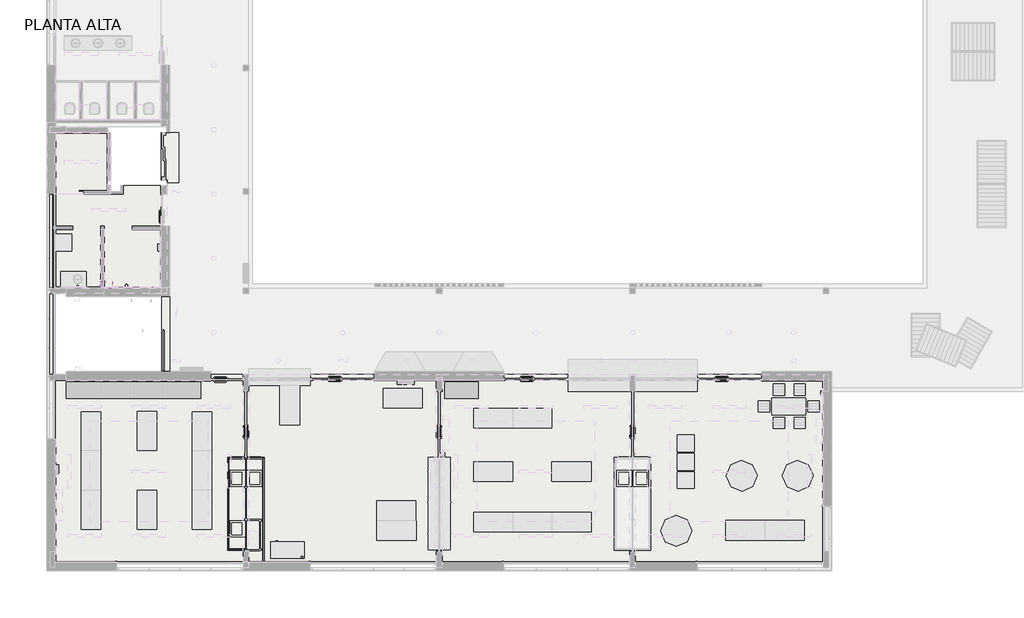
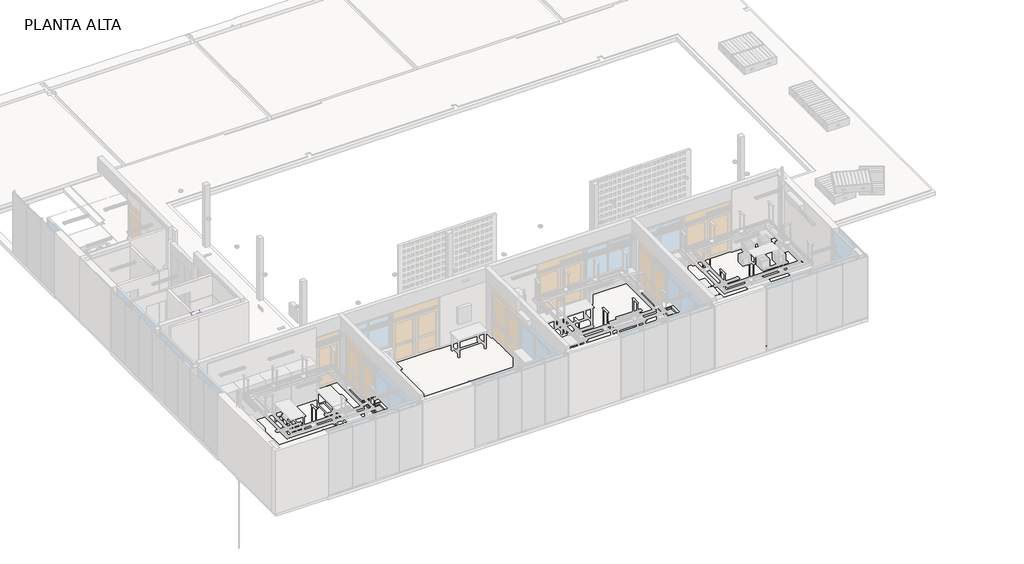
# One storey, part 6 of 14: 11 slabs, 1 covering, 1 proxy.
"""IFC4 building model written with IfcOpenShell, lengths in millimetres."""

from ifc_helpers import new_model, si_unit, frame, origin, place, context, project, spatial, polyline, circle_curve, ellipse_curve, outline, extrude, faceted_brep, element, save
from ifc_brep_helpers import plane_surface, cylinder_surface, advanced_brep

model = new_model("IFC4")

# Units and contexts
model_context = context("Model", 3, world=origin())
ifc_project = project(units=[si_unit("LENGTHUNIT", "METRE", prefix="MILLI")], contexts=[model_context])

# Site, building, storey
site = spatial("IfcSite", under=ifc_project)
building = spatial("IfcBuilding", under=site)
storey = spatial("IfcBuildingStorey", under=building, Name="PLANTA ALTA", Elevation=3310.0)

# Proxy
placement = place(None, origin())
element("IfcBuildingElementProxy", 1, Name="Borde mesada", ObjectType="Borde mesada", at=placement, inside=storey, context=model_context, shape_type="AdvancedBrep", body=[
    advanced_brep(
    [(10226.2173694, 958.9304035, 4215.0), (10226.2173694, 956.9304035, 4213.0), (10226.2173694, 956.9304035, 4190.0), (10226.2173694, 956.9304035, 4130.0), (10226.2173694, 956.9304035, 4128.0), (10226.2173694, 1006.9304035, 4128.0), (10226.2173694, 1006.9304035, 4130.0), (10226.2173694, 970.2304035, 4130.0), (10226.2173694, 958.9304035, 4130.0), (10226.2173694, 958.9304035, 4190.0), (10226.2173694, 958.9304035, 4213.0), (10226.2173694, 1004.9304035, 4213.0), (10226.2173694, 1004.9304035, 4190.0), (10226.2173694, 1026.9304035, 4190.0), (10226.2173694, 1026.9304035, 4192.0), (10226.2173694, 1006.9304035, 4192.0), (10226.2173694, 1006.9304035, 4213.0), (10226.2173694, 1004.9304035, 4215.0), (10839.1173694, 4270.2304035, 4213.0), (10839.1173694, 4270.2304035, 4128.0), (9538.3173694, 4270.2304035, 4128.0), (9538.3173694, 4270.2304035, 4213.0), (10837.1173694, 4268.2304035, 4215.0), (9540.3173694, 4268.2304035, 4215.0), (10791.1173694, 4222.2304035, 4215.0), (9586.3173694, 4222.2304035, 4215.0), (10789.1173694, 4220.2304035, 4213.0), (9588.3173694, 4220.2304035, 4213.0), (10789.1173694, 4220.2304035, 4192.0), (9588.3173694, 4220.2304035, 4192.0), (10769.1173694, 4200.2304035, 4192.0), (9608.3173694, 4200.2304035, 4192.0), (10769.1173694, 4200.2304035, 4190.0), (9608.3173694, 4200.2304035, 4190.0), (10791.1173694, 4222.2304035, 4190.0), (9586.3173694, 4222.2304035, 4190.0), (10791.1173694, 4222.2304035, 4213.0), (9586.3173694, 4222.2304035, 4213.0), (10837.1173694, 4268.2304035, 4213.0), (9540.3173694, 4268.2304035, 4213.0), (10837.1173694, 4268.2304035, 4130.0), (9540.3173694, 4268.2304035, 4130.0), (9551.6173694, 4256.9304035, 4130.0), (9588.3173694, 4220.2304035, 4130.0), (10789.1173694, 4220.2304035, 4130.0), (10825.8173694, 4256.9304035, 4130.0), (10789.1173694, 4220.2304035, 4128.0), (9588.3173694, 4220.2304035, 4128.0), (9538.3173694, 956.9304035, 4128.0), (9538.3173694, 956.9304035, 4213.0), (9540.3173694, 958.9304035, 4215.0), (9586.3173694, 1004.9304035, 4215.0), (9588.3173694, 1006.9304035, 4213.0), (9588.3173694, 1006.9304035, 4192.0), (9608.3173694, 1026.9304035, 4192.0), (9608.3173694, 1026.9304035, 4190.0), (9586.3173694, 1004.9304035, 4190.0), (9586.3173694, 1004.9304035, 4213.0), (9540.3173694, 958.9304035, 4213.0), (9540.3173694, 958.9304035, 4130.0), (9551.6173694, 970.2304035, 4130.0), (9588.3173694, 1006.9304035, 4130.0), (9588.3173694, 1006.9304035, 4128.0), (10839.1173694, 535.2304035, 4128.0), (10839.1173694, 535.2304035, 4213.0), (10837.1173694, 535.2304035, 4215.0), (10791.1173694, 535.2304035, 4215.0), (10789.1173694, 535.2304035, 4213.0), (10789.1173694, 535.2304035, 4192.0), (10769.1173694, 535.2304035, 4192.0), (10769.1173694, 535.2304035, 4190.0), (10791.1173694, 535.2304035, 4190.0), (10791.1173694, 535.2304035, 4213.0), (10837.1173694, 535.2304035, 4213.0), (10837.1173694, 535.2304035, 4130.0), (10825.8173694, 535.2304035, 4130.0), (10789.1173694, 535.2304035, 4130.0), (10789.1173694, 535.2304035, 4128.0)],
    [
        (0, 1, circle_curve(frame((10226.2173694, 958.9304035, 4213.0), z_axis=(1.0, 0.0, 0.0), x_axis=(0.0, 1.0, 0.0)), 2.0)),
        (1, 2),
        (2, 3),
        (3, 4),
        (4, 5),
        (5, 6),
        (6, 7),
        (7, 8),
        (8, 9),
        (9, 10),
        (10, 11),
        (11, 12),
        (12, 13),
        (13, 14),
        (14, 15),
        (15, 16),
        (16, 17, circle_curve(frame((10226.2173694, 1004.9304035, 4213.0), z_axis=(1.0, 0.0, 0.0), x_axis=(0.0, 1.0, 0.0)), 2.0)),
        (17, 0),
        (18, 19),
        (19, 20),
        (20, 21),
        (21, 18),
        (22, 18, ellipse_curve(frame((10837.1173694, 4268.2304035, 4213.0), z_axis=(-0.7071067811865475, 0.7071067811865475, 0.0), x_axis=(0.7071067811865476, 0.7071067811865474, 0.0)), 2.8284271, 2.0)),
        (21, 23, ellipse_curve(frame((9540.3173694, 4268.2304035, 4213.0), z_axis=(0.7071067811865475, 0.7071067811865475, 0.0), x_axis=(0.7071067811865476, -0.7071067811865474, 0.0)), 2.8284271, 2.0)),
        (23, 22),
        (24, 22),
        (23, 25),
        (25, 24),
        (26, 24, ellipse_curve(frame((10791.1173694, 4222.2304035, 4213.0), z_axis=(-0.7071067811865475, 0.7071067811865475, 0.0), x_axis=(0.7071067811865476, 0.7071067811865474, 0.0)), 2.8284271, 2.0)),
        (25, 27, ellipse_curve(frame((9586.3173694, 4222.2304035, 4213.0), z_axis=(0.7071067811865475, 0.7071067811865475, 0.0), x_axis=(0.7071067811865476, -0.7071067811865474, 0.0)), 2.8284271, 2.0)),
        (27, 26),
        (28, 26),
        (27, 29),
        (29, 28),
        (30, 28),
        (29, 31),
        (31, 30),
        (32, 30),
        (31, 33),
        (33, 32),
        (34, 32),
        (33, 35),
        (35, 34),
        (36, 34),
        (35, 37),
        (37, 36),
        (38, 36),
        (37, 39),
        (39, 38),
        (40, 38),
        (39, 41),
        (41, 40),
        (41, 42),
        (42, 43),
        (43, 44),
        (44, 45),
        (45, 40),
        (46, 44),
        (43, 47),
        (47, 46),
        (19, 46),
        (47, 20),
        (20, 48),
        (48, 49),
        (49, 21),
        (49, 50, ellipse_curve(frame((9540.3173694, 958.9304035, 4213.0), z_axis=(-0.7071067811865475, 0.7071067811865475, 0.0), x_axis=(0.7071067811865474, 0.7071067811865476, 0.0)), 2.8284271, 2.0)),
        (50, 23),
        (50, 51),
        (51, 25),
        (51, 52, ellipse_curve(frame((9586.3173694, 1004.9304035, 4213.0), z_axis=(-0.7071067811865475, 0.7071067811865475, 0.0), x_axis=(0.7071067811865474, 0.7071067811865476, 0.0)), 2.8284271, 2.0)),
        (52, 27),
        (52, 53),
        (53, 29),
        (53, 54),
        (54, 31),
        (54, 55),
        (55, 33),
        (55, 56),
        (56, 35),
        (56, 57),
        (57, 37),
        (57, 58),
        (58, 39),
        (58, 59),
        (59, 41),
        (59, 60),
        (60, 61),
        (61, 43),
        (61, 62),
        (62, 47),
        (62, 48),
        (48, 4),
        (1, 49),
        (0, 50),
        (17, 51),
        (16, 52),
        (15, 53),
        (14, 54),
        (13, 55),
        (12, 56),
        (11, 57),
        (10, 58),
        (8, 59),
        (6, 61),
        (5, 62),
        (63, 64),
        (64, 65, circle_curve(frame((10837.1173694, 535.2304035, 4213.0), z_axis=(0.0, -1.0, 0.0), x_axis=(-1.0, 0.0, 0.0)), 2.0)),
        (65, 66),
        (66, 67, circle_curve(frame((10791.1173694, 535.2304035, 4213.0), z_axis=(0.0, -1.0, 0.0), x_axis=(-1.0, 0.0, 0.0)), 2.0)),
        (67, 68),
        (68, 69),
        (69, 70),
        (70, 71),
        (71, 72),
        (72, 73),
        (73, 74),
        (74, 75),
        (75, 76),
        (76, 77),
        (77, 63),
        (18, 64),
        (63, 19),
        (22, 65),
        (24, 66),
        (26, 67),
        (28, 68),
        (30, 69),
        (32, 70),
        (34, 71),
        (36, 72),
        (38, 73),
        (40, 74),
        (44, 76),
        (46, 77),
    ],
    [
        plane_surface(frame((10226.2173694, 970.2304035, 4117.9521687), z_axis=(1.0, 0.0, 0.0), x_axis=(0.0, 1.0, 0.0))),
        plane_surface(frame((10839.1173694, 4270.2304035, 4128.0), z_axis=(0.0, 1.0, 0.0), x_axis=(-1.0, 0.0, 0.0))),
        cylinder_surface(frame((10825.8173694, 4268.2304035, 4213.0), z_axis=(1.0, 0.0, 0.0), x_axis=(0.0, -1.0, 0.0)), 2.0),
        plane_surface(frame((10837.1173694, 4268.2304035, 4215.0), z_axis=(0.0, 0.0, 1.0), x_axis=(-1.0, 0.0, 0.0))),
        cylinder_surface(frame((10825.8173694, 4222.2304035, 4213.0), z_axis=(1.0, 0.0, 0.0), x_axis=(0.0, -1.0, 0.0)), 2.0),
        plane_surface(frame((10789.1173694, 4220.2304035, 4213.0), z_axis=(0.0, -1.0, 0.0), x_axis=(-1.0, 0.0, 0.0))),
        plane_surface(frame((10789.1173694, 4220.2304035, 4192.0), z_axis=(0.0, 0.0, 1.0), x_axis=(-1.0, 0.0, 0.0))),
        plane_surface(frame((10769.1173694, 4200.2304035, 4192.0), z_axis=(0.0, -1.0, 0.0), x_axis=(-1.0, 0.0, 0.0))),
        plane_surface(frame((10769.1173694, 4200.2304035, 4190.0), z_axis=(0.0, 0.0, -1.0), x_axis=(-1.0, 0.0, 0.0))),
        plane_surface(frame((10791.1173694, 4222.2304035, 4190.0), z_axis=(0.0, 1.0, 0.0), x_axis=(-1.0, 0.0, 0.0))),
        plane_surface(frame((10791.1173694, 4222.2304035, 4213.0), z_axis=(0.0, 0.0, -1.0), x_axis=(-1.0, 0.0, 0.0))),
        plane_surface(frame((10837.1173694, 4268.2304035, 4213.0), z_axis=(0.0, -1.0, 0.0), x_axis=(-1.0, 0.0, 0.0))),
        plane_surface(frame((10837.1173694, 4268.2304035, 4130.0), z_axis=(0.0, 0.0, 1.0), x_axis=(-1.0, 0.0, 0.0))),
        plane_surface(frame((10789.1173694, 4220.2304035, 4130.0), z_axis=(0.0, -1.0, 0.0), x_axis=(-1.0, 0.0, 0.0))),
        plane_surface(frame((10789.1173694, 4220.2304035, 4128.0), z_axis=(0.0, 0.0, -1.0), x_axis=(-1.0, 0.0, 0.0))),
        plane_surface(frame((9538.3173694, 4270.2304035, 4128.0), z_axis=(-1.0, 0.0, 0.0), x_axis=(0.0, -1.0, 0.0))),
        cylinder_surface(frame((9540.3173694, 4256.9304035, 4213.0), z_axis=(0.0, 1.0, 0.0), x_axis=(1.0, 0.0, 0.0)), 2.0),
        plane_surface(frame((9540.3173694, 4268.2304035, 4215.0), z_axis=(0.0, 0.0, 1.0), x_axis=(0.0, -1.0, 0.0))),
        cylinder_surface(frame((9586.3173694, 4256.9304035, 4213.0), z_axis=(0.0, 1.0, 0.0), x_axis=(1.0, 0.0, 0.0)), 2.0),
        plane_surface(frame((9588.3173694, 4220.2304035, 4213.0), z_axis=(1.0, 0.0, 0.0), x_axis=(0.0, -1.0, 0.0))),
        plane_surface(frame((9588.3173694, 4220.2304035, 4192.0), z_axis=(0.0, 0.0, 1.0), x_axis=(0.0, -1.0, 0.0))),
        plane_surface(frame((9608.3173694, 4200.2304035, 4192.0), z_axis=(1.0, 0.0, 0.0), x_axis=(0.0, -1.0, 0.0))),
        plane_surface(frame((9608.3173694, 4200.2304035, 4190.0), z_axis=(0.0, 0.0, -1.0), x_axis=(0.0, -1.0, 0.0))),
        plane_surface(frame((9586.3173694, 4222.2304035, 4190.0), z_axis=(-1.0, 0.0, 0.0), x_axis=(0.0, -1.0, 0.0))),
        plane_surface(frame((9586.3173694, 4222.2304035, 4213.0), z_axis=(0.0, 0.0, -1.0), x_axis=(0.0, -1.0, 0.0))),
        plane_surface(frame((9540.3173694, 4268.2304035, 4213.0), z_axis=(1.0, 0.0, 0.0), x_axis=(0.0, -1.0, 0.0))),
        plane_surface(frame((9540.3173694, 4268.2304035, 4130.0), z_axis=(0.0, 0.0, 1.0), x_axis=(0.0, -1.0, 0.0))),
        plane_surface(frame((9588.3173694, 4220.2304035, 4130.0), z_axis=(1.0, 0.0, 0.0), x_axis=(0.0, -1.0, 0.0))),
        plane_surface(frame((9588.3173694, 4220.2304035, 4128.0), z_axis=(0.0, 0.0, -1.0), x_axis=(0.0, -1.0, 0.0))),
        plane_surface(frame((9538.3173694, 956.9304035, 4128.0), z_axis=(0.0, -1.0, 0.0), x_axis=(1.0, 0.0, 0.0))),
        cylinder_surface(frame((9551.6173694, 958.9304035, 4213.0), z_axis=(-1.0, 0.0, 0.0), x_axis=(0.0, 1.0, 0.0)), 2.0),
        plane_surface(frame((9540.3173694, 958.9304035, 4215.0), z_axis=(0.0, 0.0, 1.0), x_axis=(1.0, 0.0, 0.0))),
        cylinder_surface(frame((9551.6173694, 1004.9304035, 4213.0), z_axis=(-1.0, 0.0, 0.0), x_axis=(0.0, 1.0, 0.0)), 2.0),
        plane_surface(frame((9588.3173694, 1006.9304035, 4213.0), z_axis=(0.0, 1.0, 0.0), x_axis=(1.0, 0.0, 0.0))),
        plane_surface(frame((9588.3173694, 1006.9304035, 4192.0), z_axis=(0.0, 0.0, 1.0), x_axis=(1.0, 0.0, 0.0))),
        plane_surface(frame((9608.3173694, 1026.9304035, 4192.0), z_axis=(0.0, 1.0, 0.0), x_axis=(1.0, 0.0, 0.0))),
        plane_surface(frame((9608.3173694, 1026.9304035, 4190.0), z_axis=(0.0, 0.0, -1.0), x_axis=(1.0, 0.0, 0.0))),
        plane_surface(frame((9586.3173694, 1004.9304035, 4190.0), z_axis=(0.0, -1.0, 0.0), x_axis=(1.0, 0.0, 0.0))),
        plane_surface(frame((9586.3173694, 1004.9304035, 4213.0), z_axis=(0.0, 0.0, -1.0), x_axis=(1.0, 0.0, 0.0))),
        plane_surface(frame((9540.3173694, 958.9304035, 4213.0), z_axis=(0.0, 1.0, 0.0), x_axis=(1.0, 0.0, 0.0))),
        plane_surface(frame((9540.3173694, 958.9304035, 4130.0), z_axis=(0.0, 0.0, 1.0), x_axis=(1.0, 0.0, 0.0))),
        plane_surface(frame((9588.3173694, 1006.9304035, 4130.0), z_axis=(0.0, 1.0, 0.0), x_axis=(1.0, 0.0, 0.0))),
        plane_surface(frame((9588.3173694, 1006.9304035, 4128.0), z_axis=(0.0, 0.0, -1.0), x_axis=(1.0, 0.0, 0.0))),
        plane_surface(frame((10753.769538, 535.2304035, 4190.0), z_axis=(0.0, -1.0, 0.0), x_axis=(0.0, 0.0, 1.0))),
        plane_surface(frame((10839.1173694, 535.2304035, 4128.0), z_axis=(1.0, 0.0, 0.0), x_axis=(0.0, 1.0, 0.0))),
        cylinder_surface(frame((10837.1173694, 535.2304035, 4213.0), z_axis=(0.0, -1.0, 0.0), x_axis=(-1.0, 0.0, 0.0)), 2.0),
        plane_surface(frame((10837.1173694, 535.2304035, 4215.0), z_axis=(0.0, 0.0, 1.0), x_axis=(0.0, 1.0, 0.0))),
        cylinder_surface(frame((10791.1173694, 535.2304035, 4213.0), z_axis=(0.0, -1.0, 0.0), x_axis=(-1.0, 0.0, 0.0)), 2.0),
        plane_surface(frame((10789.1173694, 535.2304035, 4213.0), z_axis=(-1.0, 0.0, 0.0), x_axis=(0.0, 1.0, 0.0))),
        plane_surface(frame((10789.1173694, 535.2304035, 4192.0), z_axis=(0.0, 0.0, 1.0), x_axis=(0.0, 1.0, 0.0))),
        plane_surface(frame((10769.1173694, 535.2304035, 4192.0), z_axis=(-1.0, 0.0, 0.0), x_axis=(0.0, 1.0, 0.0))),
        plane_surface(frame((10769.1173694, 535.2304035, 4190.0), z_axis=(0.0, 0.0, -1.0), x_axis=(0.0, 1.0, 0.0))),
        plane_surface(frame((10791.1173694, 535.2304035, 4190.0), z_axis=(1.0, 0.0, 0.0), x_axis=(0.0, 1.0, 0.0))),
        plane_surface(frame((10791.1173694, 535.2304035, 4213.0), z_axis=(0.0, 0.0, -1.0), x_axis=(0.0, 1.0, 0.0))),
        plane_surface(frame((10837.1173694, 535.2304035, 4213.0), z_axis=(-1.0, 0.0, 0.0), x_axis=(0.0, 1.0, 0.0))),
        plane_surface(frame((10837.1173694, 535.2304035, 4130.0), z_axis=(0.0, 0.0, 1.0), x_axis=(0.0, 1.0, 0.0))),
        plane_surface(frame((10789.1173694, 535.2304035, 4130.0), z_axis=(-1.0, 0.0, 0.0), x_axis=(0.0, 1.0, 0.0))),
        plane_surface(frame((10789.1173694, 535.2304035, 4128.0), z_axis=(0.0, 0.0, -1.0), x_axis=(0.0, 1.0, 0.0))),
    ],
    [
        (0, [[1, 2, 3, 4, 5, 6, 7, 8, 9, 10, 11, 12, 13, 14, 15, 16, 17, 18]]),
        (1, [[19, 20, 21, 22]]),
        (2, [[23, -22, 24, 25]]),
        (3, [[26, -25, 27, 28]]),
        (4, [[29, -28, 30, 31]]),
        (5, [[32, -31, 33, 34]]),
        (6, [[35, -34, 36, 37]]),
        (7, [[38, -37, 39, 40]]),
        (8, [[41, -40, 42, 43]]),
        (9, [[44, -43, 45, 46]]),
        (10, [[47, -46, 48, 49]]),
        (11, [[50, -49, 51, 52]]),
        (12, [[-52, 53, 54, 55, 56, 57]]),
        (13, [[58, -55, 59, 60]]),
        (14, [[61, -60, 62, -20]]),
        (15, [[-21, 63, 64, 65]]),
        (16, [[-24, -65, 66, 67]]),
        (17, [[-27, -67, 68, 69]]),
        (18, [[-30, -69, 70, 71]]),
        (19, [[-33, -71, 72, 73]]),
        (20, [[-36, -73, 74, 75]]),
        (21, [[-39, -75, 76, 77]]),
        (22, [[-42, -77, 78, 79]]),
        (23, [[-45, -79, 80, 81]]),
        (24, [[-48, -81, 82, 83]]),
        (25, [[-51, -83, 84, 85]]),
        (26, [[-85, 86, 87, 88, -54, -53]]),
        (27, [[-59, -88, 89, 90]]),
        (28, [[-62, -90, 91, -63]]),
        (29, [[-64, 92, -4, -3, -2, 93]]),
        (30, [[-66, -93, -1, 94]]),
        (31, [[-68, -94, -18, 95]]),
        (32, [[-70, -95, -17, 96]]),
        (33, [[-72, -96, -16, 97]]),
        (34, [[-74, -97, -15, 98]]),
        (35, [[-76, -98, -14, 99]]),
        (36, [[-78, -99, -13, 100]]),
        (37, [[-80, -100, -12, 101]]),
        (38, [[-82, -101, -11, 102]]),
        (39, [[-84, -102, -10, -9, 103]]),
        (40, [[-103, -8, -7, 104, -87, -86]]),
        (41, [[-89, -104, -6, 105]]),
        (42, [[-91, -105, -5, -92]]),
        (43, [[106, 107, 108, 109, 110, 111, 112, 113, 114, 115, 116, 117, 118, 119, 120]]),
        (44, [[-19, 121, -106, 122]]),
        (45, [[-23, 123, -107, -121]]),
        (46, [[-26, 124, -108, -123]]),
        (47, [[-29, 125, -109, -124]]),
        (48, [[-32, 126, -110, -125]]),
        (49, [[-35, 127, -111, -126]]),
        (50, [[-38, 128, -112, -127]]),
        (51, [[-41, 129, -113, -128]]),
        (52, [[-44, 130, -114, -129]]),
        (53, [[-47, 131, -115, -130]]),
        (54, [[-50, 132, -116, -131]]),
        (55, [[-132, -57, -56, 133, -118, -117]]),
        (56, [[-58, 134, -119, -133]]),
        (57, [[-61, -122, -120, -134]]),
    ],
),
])

# Covering
element("IfcCovering", 2, ObjectType="22-CIEL-PLACA DE YESO PINTADA DE BLANCO CON ESTRUCTURA 45,5MM", at=placement, inside=storey, context=model_context, shape_type="SweptSolid", body=[
    extrude(outline(polyline([(4999.4173694, 10540.2304035), (5418.7212045, 10540.2304035), (5418.7212045, 10320.2304035), (4999.4173694, 10320.2304035), (4999.4173694, 10540.2304035)])), frame((0.0, 0.0, 6410.0), z_axis=(0.0, 0.0, 1.0), x_axis=(1.0, 0.0, 0.0)), (0.0, 0.0, 1.0), 45.5),
])

# Slabs
element("IfcSlab", 3, ObjectType="C21 MONOLITICO 30x30 5cm", at=placement, inside=storey, context=model_context, shape_type="Brep", body=[
    faceted_brep([(5253.7173693, 15855.2304035, 3260.0), (5253.7173693, 13780.2304035, 3260.0), (4403.7173694, 13780.2304035, 3260.0), (4403.7173694, 13670.2304035, 3260.0), (5363.7173693, 13670.2304035, 3260.0), (5363.7173693, 13755.2304035, 3260.0), (5718.7173694, 13755.2304035, 3260.0), (5718.7173694, 13970.2304035, 3260.0), (7168.7173694, 13970.2304035, 3260.0), (7168.7173694, 12520.2304035, 3260.0), (7148.7173693, 12520.2304035, 3260.0), (6133.7173694, 12520.2304035, 3260.0), (6133.7173694, 12415.2304035, 3260.0), (7148.7173693, 12415.2304035, 3260.0), (7158.3526361, 12415.2304035, 3260.0), (7158.3526361, 10340.2304035, 3260.0), (7158.3526361, 10330.2304035, 3260.0), (5123.3526361, 10330.2304035, 3260.0), (5123.3526361, 10340.2304035, 3260.0), (5123.3526361, 12405.2304035, 3260.0), (5133.7173694, 12405.2304035, 3260.0), (5133.7173694, 12410.2304035, 3260.0), (5133.7173694, 12520.2304035, 3260.0), (5018.7173694, 12520.2304035, 3260.0), (5018.7173694, 12410.2304035, 3260.0), (5018.7173694, 10335.2304035, 3260.0), (3403.7173693, 10335.2304035, 3260.0), (3403.7173693, 12410.2304035, 3260.0), (4018.7173694, 12410.2304035, 3260.0), (4018.7173694, 12520.2304035, 3260.0), (3403.7173694, 12520.2304035, 3260.0), (3403.7173694, 15855.2304035, 3260.0), (5253.7173693, 15855.2304035, 3310.0), (3403.7173694, 15855.2304035, 3310.0), (3403.7173694, 12520.2304035, 3310.0), (4018.7173694, 12520.2304035, 3310.0), (4018.7173694, 12410.2304035, 3310.0), (3403.7173693, 12410.2304035, 3310.0), (3403.7173693, 10335.2304035, 3310.0), (5018.7173694, 10335.2304035, 3310.0), (5018.7173694, 12520.2304035, 3310.0), (5133.7173694, 12520.2304035, 3310.0), (5133.7173694, 12405.2304035, 3310.0), (5123.3526361, 12405.2304035, 3310.0), (5123.3526361, 10340.2304035, 3310.0), (5123.3526361, 10330.2304035, 3310.0), (7158.3526361, 10330.2304035, 3310.0), (7158.3526361, 10340.2304035, 3310.0), (7158.3526361, 12415.2304035, 3310.0), (7148.7173693, 12415.2304035, 3310.0), (6133.7173694, 12415.2304035, 3310.0), (6133.7173694, 12520.2304035, 3310.0), (7168.7173694, 12520.2304035, 3310.0), (7168.7173694, 13970.2304035, 3310.0), (5718.7173694, 13970.2304035, 3310.0), (5718.7173694, 13755.2304035, 3310.0), (5363.7173693, 13755.2304035, 3310.0), (5363.7173693, 13670.2304035, 3310.0), (4403.7173694, 13670.2304035, 3310.0), (4403.7173694, 13780.2304035, 3310.0), (5253.7173693, 13780.2304035, 3310.0)], [[[0, 1, 2, 3, 4, 5, 6, 7, 8, 9, 10, 11, 12, 13, 14, 15, 16, 17, 18, 19, 20, 21, 22, 23, 24, 25, 26, 27, 28, 29, 30, 31]], [[32, 33, 34, 35, 36, 37, 38, 39, 40, 41, 42, 43, 44, 45, 46, 47, 48, 49, 50, 51, 52, 53, 54, 55, 56, 57, 58, 59, 60]], [[1, 0, 32, 60]], [[2, 1, 60, 59]], [[3, 2, 59, 58]], [[4, 3, 58, 57]], [[5, 4, 57, 56]], [[8, 7, 54, 53]], [[9, 8, 53, 52]], [[11, 10, 9, 52, 51]], [[12, 11, 51, 50]], [[14, 13, 12, 50, 49, 48]], [[16, 15, 14, 48, 47, 46]], [[17, 16, 46, 45]], [[19, 18, 17, 45, 44, 43]], [[20, 19, 43, 42]], [[22, 21, 20, 42, 41]], [[23, 22, 41, 40]], [[25, 24, 23, 40, 39]], [[26, 25, 39, 38]], [[27, 26, 38, 37]], [[28, 27, 37, 36]], [[29, 28, 36, 35]], [[30, 29, 35, 34]], [[31, 30, 34, 33]], [[0, 31, 33, 32]], [[6, 5, 56, 55]], [[7, 6, 55, 54]]]),
])
element("IfcSlab", 4, ObjectType="PODOTÁCTIL 30x30 4 cm", at=placement, inside=storey, context=model_context, shape_type="SweptSolid", body=[
    extrude(outline(polyline([(7188.7173693, 10010.2304035), (7478.7173693, 10010.2304035), (7478.7173693, 7330.2304035), (7188.7173693, 7330.2304035), (7188.7173693, 10010.2304035)])), frame((0.0, 0.0, 3260.0), z_axis=(0.0, 0.0, 1.0), x_axis=(1.0, 0.0, 0.0)), (0.0, 0.0, 1.0), 50.0),
])
element("IfcSlab", 5, ObjectType="PODOTÁCTIL 30x30 4 cm", at=placement, inside=storey, context=model_context, shape_type="SweptSolid", body=[
    extrude(outline(polyline([(7788.7173694, 15870.2304035), (7788.7173694, 14070.2304035), (7368.7173693, 14070.2304035), (7368.7173693, 14170.2304035), (7168.7173694, 14170.2304035), (7168.7173694, 15870.2304035), (7788.7173694, 15870.2304035)])), frame((0.0, 0.0, 3260.0), z_axis=(0.0, 0.0, 1.0), x_axis=(1.0, 0.0, 0.0)), (0.0, 0.0, 1.0), 50.0),
])
element("IfcSlab", 6, ObjectType="MESA-INT-Mesada de hormigón-6cm-PET", at=placement, inside=storey, context=model_context, shape_type="Brep", body=[
    faceted_brep([(10825.8173694, 4256.9304035, 4130.0), (10825.8173694, 535.2304035, 4130.0), (10789.1173694, 535.2304035, 4130.0), (10288.7173693, 535.2304035, 4130.0), (10288.7173693, 920.2304035, 4130.0), (10226.2173694, 920.2304035, 4130.0), (10226.2173694, 970.2304035, 4130.0), (9551.6173694, 970.2304035, 4130.0), (9551.6173694, 4256.9304035, 4130.0), (10051.6173694, 3730.2304035, 4130.0), (9691.6173694, 3730.2304035, 4130.0), (9691.6173694, 3310.2304035, 4130.0), (10051.6173694, 3310.2304035, 4130.0), (10051.6173694, 1930.2304035, 4130.0), (9691.6173694, 1930.2304035, 4130.0), (9691.6173694, 1510.2304035, 4130.0), (10051.6173694, 1510.2304035, 4130.0), (10325.8173694, 3730.2304035, 4130.0), (10325.8173694, 3310.2304035, 4130.0), (10685.8173694, 3310.2304035, 4130.0), (10685.8173694, 3730.2304035, 4130.0), (10825.8173694, 4256.9304035, 4190.0), (9551.6173694, 4256.9304035, 4190.0), (9551.6173694, 970.2304035, 4190.0), (10226.2173694, 970.2304035, 4190.0), (10226.2173694, 920.2304035, 4190.0), (10288.7173693, 920.2304035, 4190.0), (10288.7173693, 535.2304035, 4190.0), (10769.1173694, 535.2304035, 4190.0), (10791.1173694, 535.2304035, 4190.0), (10825.8173694, 535.2304035, 4190.0), (10051.6173694, 3730.2304035, 4190.0), (10051.6173694, 3310.2304035, 4190.0), (9691.6173694, 3310.2304035, 4190.0), (9691.6173694, 3730.2304035, 4190.0), (10051.6173694, 1930.2304035, 4190.0), (10051.6173694, 1510.2304035, 4190.0), (9691.6173694, 1510.2304035, 4190.0), (9691.6173694, 1930.2304035, 4190.0), (10325.8173694, 3730.2304035, 4190.0), (10685.8173694, 3730.2304035, 4190.0), (10685.8173694, 3310.2304035, 4190.0), (10325.8173694, 3310.2304035, 4190.0)], [[[0, 1, 2, 3, 4, 5, 6, 7, 8], [9, 10, 11, 12], [13, 14, 15, 16], [17, 18, 19, 20]], [[21, 22, 23, 24, 25, 26, 27, 28, 29, 30], [31, 32, 33, 34], [35, 36, 37, 38], [39, 40, 41, 42]], [[1, 0, 21, 30]], [[3, 2, 1, 30, 29, 28, 27]], [[4, 3, 27, 26]], [[7, 6, 24, 23]], [[8, 7, 23, 22]], [[0, 8, 22, 21]], [[10, 9, 31, 34]], [[11, 10, 34, 33]], [[12, 11, 33, 32]], [[9, 12, 32, 31]], [[14, 13, 35, 38]], [[15, 14, 38, 37]], [[16, 15, 37, 36]], [[13, 16, 36, 35]], [[18, 17, 39, 42]], [[19, 18, 42, 41]], [[20, 19, 41, 40]], [[17, 20, 40, 39]], [[5, 4, 26, 25]], [[6, 5, 25, 24]]]),
])
element("IfcSlab", 7, ObjectType="BANQUINA 13cm", at=placement, inside=storey, context=model_context, shape_type="Brep", body=[
    faceted_brep([(10113.7173694, 4120.2304035, 3260.0), (10113.7173694, 3245.2304035, 3260.0), (9658.3173694, 3245.2304035, 3260.0), (9658.3173694, 4120.2304035, 3260.0), (10113.7173694, 4120.2304035, 3380.0), (9658.3173694, 4120.2304035, 3380.0), (9658.3173694, 3245.2304035, 3380.0), (10113.7173694, 3245.2304035, 3380.0)], [[[0, 1, 2, 3]], [[4, 5, 6, 7]], [[1, 0, 4, 7]], [[2, 1, 7, 6]], [[3, 2, 6, 5]], [[0, 3, 5, 4]]]),
    faceted_brep([(10720.0173694, 4120.2304035, 3260.0), (10720.0173694, 3245.2304035, 3260.0), (10263.7173694, 3245.2304035, 3260.0), (10263.7173694, 4120.2304035, 3260.0), (10720.0173694, 4120.2304035, 3380.0), (10263.7173694, 4120.2304035, 3380.0), (10263.7173694, 3245.2304035, 3380.0), (10720.0173694, 3245.2304035, 3380.0)], [[[0, 1, 2, 3]], [[4, 5, 6, 7]], [[1, 0, 4, 7]], [[2, 1, 7, 6]], [[3, 2, 6, 5]], [[0, 3, 5, 4]]]),
    faceted_brep([(10113.7173694, 3095.2304035, 3260.0), (10113.7173694, 2145.2304035, 3260.0), (9658.3173694, 2145.2304035, 3260.0), (9658.3173694, 3095.2304035, 3260.0), (10113.7173694, 3095.2304035, 3380.0), (9658.3173694, 3095.2304035, 3380.0), (9658.3173694, 2145.2304035, 3380.0), (10113.7173694, 2145.2304035, 3380.0)], [[[0, 1, 2, 3]], [[4, 5, 6, 7]], [[1, 0, 4, 7]], [[2, 1, 7, 6]], [[3, 2, 6, 5]], [[0, 3, 5, 4]]]),
    faceted_brep([(10720.0173694, 3095.2304035, 3260.0), (10720.0173694, 2145.2304035, 3260.0), (10263.7173694, 2145.2304035, 3260.0), (10263.7173694, 3095.2304035, 3260.0), (10720.0173694, 3095.2304035, 3380.0), (10263.7173694, 3095.2304035, 3380.0), (10263.7173694, 2145.2304035, 3380.0), (10720.0173694, 2145.2304035, 3380.0)], [[[0, 1, 2, 3]], [[4, 5, 6, 7]], [[1, 0, 4, 7]], [[2, 1, 7, 6]], [[3, 2, 6, 5]], [[0, 3, 5, 4]]]),
    faceted_brep([(10113.7173694, 1995.2304035, 3260.0), (10113.7173694, 1120.2304035, 3260.0), (9658.3173694, 1120.2304035, 3260.0), (9658.3173694, 1995.2304035, 3260.0), (10113.7173694, 1995.2304035, 3380.0), (9658.3173694, 1995.2304035, 3380.0), (9658.3173694, 1120.2304035, 3380.0), (10113.7173694, 1120.2304035, 3380.0)], [[[0, 1, 2, 3]], [[4, 5, 6, 7]], [[1, 0, 4, 7]], [[2, 1, 7, 6]], [[3, 2, 6, 5]], [[0, 3, 5, 4]]]),
    faceted_brep([(10720.0173694, 1995.2304035, 3260.0), (10720.0173694, 1120.2304035, 3260.0), (10263.7173694, 1120.2304035, 3260.0), (10263.7173694, 1995.2304035, 3260.0), (10720.0173694, 1995.2304035, 3380.0), (10263.7173694, 1995.2304035, 3380.0), (10263.7173694, 1120.2304035, 3380.0), (10720.0173694, 1120.2304035, 3380.0)], [[[0, 1, 2, 3]], [[4, 5, 6, 7]], [[1, 0, 4, 7]], [[3, 2, 6, 5]], [[0, 3, 5, 4]], [[2, 1, 7, 6]]]),
    faceted_brep([(10295.0173694, 535.2304035, 3260.0), (10288.7173694, 535.2304035, 3260.0), (10288.7173694, 970.2304035, 3260.0), (10720.0173694, 970.2304035, 3260.0), (10720.0173694, 535.2304035, 3260.0), (10295.0173694, 535.2304035, 3380.0), (10720.0173694, 535.2304035, 3380.0), (10720.0173694, 545.2304035, 3380.0), (10720.0173694, 970.2304035, 3380.0), (10288.7173694, 970.2304035, 3380.0), (10288.7173694, 535.2304035, 3380.0), (10720.0173694, 535.2304035, 3310.0)], [[[0, 1, 2, 3, 4]], [[5, 6, 7, 8, 9, 10]], [[0, 4, 11, 6, 5]], [[1, 0, 5, 10]], [[2, 1, 10, 9]], [[3, 2, 9, 8]], [[4, 3, 8, 7, 6, 11]]]),
])
element("IfcSlab", 8, ObjectType="PORCELANATO MESADA 2cm", at=placement, inside=storey, context=model_context, shape_type="SweptSolid", body=[
    extrude(outline(polyline([(10789.1173694, 4220.2304035), (10789.1173694, 3820.2304035), (9588.3173694, 3820.2304035), (9588.3173694, 4220.2304035), (10789.1173694, 4220.2304035)])), frame((0.0, 0.0, 4190.0), z_axis=(0.0, 0.0, 1.0), x_axis=(1.0, 0.0, 0.0)), (0.0, 0.0, 1.0), 20.0),
    extrude(outline(polyline([(10226.2173694, 3220.2304035), (10789.1173694, 3220.2304035), (10789.1173694, 535.2304035), (10288.7173693, 535.2304035), (10288.7173693, 920.2304035), (10226.2173694, 920.2304035), (10226.2173694, 1006.9304035), (9588.3173694, 1006.9304035), (9588.3173694, 1420.2304035), (10188.3173694, 1420.2304035), (10188.3173694, 2020.2304035), (10226.2173694, 2020.2304035), (10226.2173694, 2070.2304035), (10151.2173694, 2070.2304035), (10151.2173694, 2020.2304035), (9588.3173694, 2020.2304035), (9588.3173694, 3220.2304035), (10151.2173694, 3220.2304035), (10151.2173694, 3170.2304035), (10226.2173694, 3170.2304035), (10226.2173694, 3220.2304035)])), frame((0.0, 0.0, 4190.0), z_axis=(0.0, 0.0, 1.0), x_axis=(1.0, 0.0, 0.0)), (0.0, 0.0, 1.0), 20.0),
])
element("IfcSlab", 9, ObjectType="C20 MONOLITICO 30x30 5cm", at=placement, inside=storey, context=model_context, shape_type="Brep", body=[
    faceted_brep([(3388.7173693, 4920.2304035, 3260.0), (3388.7173693, 7005.2304035, 3260.0), (8938.7173694, 7005.2304035, 3260.0), (8938.7173694, 7220.2304035, 3260.0), (10088.7173694, 7220.2304035, 3260.0), (10088.7173694, 6620.2304035, 3260.0), (10288.7173694, 6620.2304035, 3260.0), (10288.7173694, 7220.2304035, 3260.0), (14788.7173694, 7220.2304035, 3260.0), (14788.7173694, 7020.2304035, 3260.0), (16988.7173694, 7020.2304035, 3260.0), (16988.7173694, 6620.2304035, 3260.0), (17188.7173694, 6620.2304035, 3260.0), (17188.7173694, 7020.2304035, 3260.0), (19388.7173694, 7020.2304035, 3260.0), (19388.7173694, 7220.2304035, 3260.0), (23888.7173694, 7220.2304035, 3260.0), (23888.7173694, 6620.2304035, 3260.0), (24088.7173694, 6620.2304035, 3260.0), (24088.7173694, 7220.2304035, 3260.0), (28588.7173694, 7220.2304035, 3260.0), (28588.7173694, 7005.2304035, 3260.0), (30773.7173693, 7005.2304035, 3260.0), (30773.7173693, 6665.2304035, 3260.0), (30673.7173693, 6665.2304035, 3260.0), (30673.7173693, 6465.2304035, 3260.0), (30773.7173693, 6465.2304035, 3260.0), (30773.7173693, 535.2304035, 3260.0), (24088.7173694, 535.2304035, 3260.0), (24088.7173694, 920.2304035, 3260.0), (23888.7173694, 920.2304035, 3260.0), (23888.7173694, 535.2304035, 3260.0), (17188.7173694, 535.2304035, 3260.0), (17188.7173694, 920.2304035, 3260.0), (16988.7173694, 920.2304035, 3260.0), (16988.7173694, 535.2304035, 3260.0), (10720.0173694, 535.2304035, 3260.0), (10720.0173694, 1995.2304035, 3260.0), (10720.0173694, 2145.2304035, 3260.0), (10720.0173694, 3095.2304035, 3260.0), (10720.0173694, 3245.2304035, 3260.0), (10720.0173694, 4270.2304035, 3260.0), (9658.3173694, 4270.2304035, 3260.0), (9658.3173694, 3245.2304035, 3260.0), (9658.3173694, 3095.2304035, 3260.0), (9658.3173694, 2145.2304035, 3260.0), (9658.3173694, 1995.2304035, 3260.0), (9658.3173694, 1120.2304035, 3260.0), (9658.3173694, 970.2304035, 3260.0), (10113.7173694, 970.2304035, 3260.0), (10151.2173694, 970.2304035, 3260.0), (10151.2173694, 920.2304035, 3260.0), (10088.7173693, 920.2304035, 3260.0), (10088.7173693, 535.2304035, 3260.0), (3403.7173693, 535.2304035, 3260.0), (3403.7173693, 3685.2304035, 3260.0), (3538.7173693, 3685.2304035, 3260.0), (3538.7173693, 4015.2304035, 3260.0), (3403.7173693, 4015.2304035, 3260.0), (3403.7173693, 4920.2304035, 3260.0), (17288.7173694, 4428.2304035, 3260.0), (17188.7173694, 4428.2304035, 3260.0), (17188.7173694, 4270.2304035, 3260.0), (17288.7173694, 4270.2304035, 3260.0), (23458.3173694, 4270.2304035, 3260.0), (23458.3173694, 4120.2304035, 3260.0), (23458.3173694, 3245.2304035, 3260.0), (23458.3173694, 3095.2304035, 3260.0), (23458.3173694, 2145.2304035, 3260.0), (23458.3173694, 1995.2304035, 3260.0), (23458.3173694, 1120.2304035, 3260.0), (23458.3173694, 970.2304035, 3260.0), (24519.1173694, 970.2304035, 3260.0), (24519.1173694, 1120.2304035, 3260.0), (24519.1173694, 1995.2304035, 3260.0), (24519.1173694, 2145.2304035, 3260.0), (24519.1173694, 3095.2304035, 3260.0), (24519.1173694, 3245.2304035, 3260.0), (24519.1173694, 4120.2304035, 3260.0), (24519.1173694, 4270.2304035, 3260.0), (3388.7173693, 4920.2304035, 3310.0), (3403.7173693, 4920.2304035, 3310.0), (3403.7173693, 4015.2304035, 3310.0), (3538.7173693, 4015.2304035, 3310.0), (3538.7173693, 3685.2304035, 3310.0), (3403.7173693, 3685.2304035, 3310.0), (3403.7173693, 535.2304035, 3310.0), (10088.7173693, 535.2304035, 3310.0), (10088.7173693, 920.2304035, 3310.0), (10151.2173694, 920.2304035, 3310.0), (10151.2173694, 970.2304035, 3310.0), (9658.3173694, 970.2304035, 3310.0), (9658.3173694, 1120.2304035, 3310.0), (9658.3173694, 1995.2304035, 3310.0), (9658.3173694, 2145.2304035, 3310.0), (9658.3173694, 3095.2304035, 3310.0), (9658.3173694, 3245.2304035, 3310.0), (9658.3173694, 4270.2304035, 3310.0), (10720.0173694, 4270.2304035, 3310.0), (10720.0173694, 535.2304035, 3310.0), (16988.7173694, 535.2304035, 3310.0), (16988.7173694, 920.2304035, 3310.0), (17188.7173694, 920.2304035, 3310.0), (17188.7173694, 535.2304035, 3310.0), (23888.7173694, 535.2304035, 3310.0), (23888.7173694, 920.2304035, 3310.0), (24088.7173694, 920.2304035, 3310.0), (24088.7173694, 535.2304035, 3310.0), (30773.7173693, 535.2304035, 3310.0), (30773.7173693, 6465.2304035, 3310.0), (30673.7173693, 6465.2304035, 3310.0), (30673.7173693, 6665.2304035, 3310.0), (30773.7173693, 6665.2304035, 3310.0), (30773.7173693, 7005.2304035, 3310.0), (28588.7173694, 7005.2304035, 3310.0), (28588.7173694, 7220.2304035, 3310.0), (24088.7173694, 7220.2304035, 3310.0), (24088.7173694, 6620.2304035, 3310.0), (23888.7173694, 6620.2304035, 3310.0), (23888.7173694, 7220.2304035, 3310.0), (19388.7173694, 7220.2304035, 3310.0), (19388.7173694, 7020.2304035, 3310.0), (17188.7173694, 7020.2304035, 3310.0), (17188.7173694, 6620.2304035, 3310.0), (16988.7173694, 6620.2304035, 3310.0), (16988.7173694, 7020.2304035, 3310.0), (14788.7173694, 7020.2304035, 3310.0), (14788.7173694, 7220.2304035, 3310.0), (10288.7173694, 7220.2304035, 3310.0), (10288.7173694, 6620.2304035, 3310.0), (10088.7173694, 6620.2304035, 3310.0), (10088.7173694, 7220.2304035, 3310.0), (8938.7173694, 7220.2304035, 3310.0), (8938.7173694, 7005.2304035, 3310.0), (3388.7173693, 7005.2304035, 3310.0), (23458.3173694, 4270.2304035, 3310.0), (24519.1173694, 4270.2304035, 3310.0), (24519.1173694, 4120.2304035, 3310.0), (24519.1173694, 3245.2304035, 3310.0), (24519.1173694, 3095.2304035, 3310.0), (24519.1173694, 2145.2304035, 3310.0), (24519.1173694, 1995.2304035, 3310.0), (24519.1173694, 1120.2304035, 3310.0), (24519.1173694, 970.2304035, 3310.0), (23458.3173694, 970.2304035, 3310.0), (23458.3173694, 1995.2304035, 3310.0), (23458.3173694, 2145.2304035, 3310.0), (23458.3173694, 3095.2304035, 3310.0), (23458.3173694, 3245.2304035, 3310.0), (23458.3173694, 4120.2304035, 3310.0), (17288.7173694, 4428.2304035, 3310.0), (17288.7173694, 4270.2304035, 3310.0), (17188.7173694, 4270.2304035, 3310.0), (17188.7173694, 4428.2304035, 3310.0)], [[[0, 1, 2, 3, 4, 5, 6, 7, 8, 9, 10, 11, 12, 13, 14, 15, 16, 17, 18, 19, 20, 21, 22, 23, 24, 25, 26, 27, 28, 29, 30, 31, 32, 33, 34, 35, 36, 37, 38, 39, 40, 41, 42, 43, 44, 45, 46, 47, 48, 49, 50, 51, 52, 53, 54, 55, 56, 57, 58, 59], [60, 61, 62, 63], [64, 65, 66, 67, 68, 69, 70, 71, 72, 73, 74, 75, 76, 77, 78, 79]], [[80, 81, 82, 83, 84, 85, 86, 87, 88, 89, 90, 91, 92, 93, 94, 95, 96, 97, 98, 99, 100, 101, 102, 103, 104, 105, 106, 107, 108, 109, 110, 111, 112, 113, 114, 115, 116, 117, 118, 119, 120, 121, 122, 123, 124, 125, 126, 127, 128, 129, 130, 131, 132, 133, 134], [135, 136, 137, 138, 139, 140, 141, 142, 143, 144, 145, 146, 147, 148, 149], [150, 151, 152, 153]], [[1, 0, 80, 134]], [[2, 1, 134, 133]], [[5, 4, 131, 130]], [[6, 5, 130, 129]], [[7, 6, 129, 128]], [[8, 7, 128, 127]], [[11, 10, 125, 124]], [[12, 11, 124, 123]], [[13, 12, 123, 122]], [[14, 13, 122, 121]], [[17, 16, 119, 118]], [[18, 17, 118, 117]], [[19, 18, 117, 116]], [[22, 21, 114, 113]], [[27, 26, 109, 108]], [[28, 27, 108, 107]], [[29, 28, 107, 106]], [[30, 29, 106, 105]], [[31, 30, 105, 104]], [[32, 31, 104, 103]], [[33, 32, 103, 102]], [[34, 33, 102, 101]], [[35, 34, 101, 100]], [[36, 35, 100, 99]], [[41, 40, 39, 38, 37, 36, 99, 98]], [[42, 41, 98, 97]], [[48, 47, 46, 45, 44, 43, 42, 97, 96, 95, 94, 93, 92, 91]], [[50, 49, 48, 91, 90]], [[51, 50, 90, 89]], [[52, 51, 89, 88]], [[53, 52, 88, 87]], [[54, 53, 87, 86]], [[59, 58, 82, 81]], [[71, 70, 69, 68, 67, 66, 65, 64, 135, 149, 148, 147, 146, 145, 144]], [[72, 71, 144, 143]], [[79, 78, 77, 76, 75, 74, 73, 72, 143, 142, 141, 140, 139, 138, 137, 136]], [[64, 79, 136, 135]], [[3, 2, 133, 132]], [[4, 3, 132, 131]], [[10, 9, 126, 125]], [[16, 15, 120, 119]], [[20, 19, 116, 115]], [[21, 20, 115, 114]], [[0, 59, 81, 80]], [[55, 54, 86, 85]], [[56, 55, 85, 84]], [[57, 56, 84, 83]], [[58, 57, 83, 82]], [[23, 22, 113, 112]], [[24, 23, 112, 111]], [[25, 24, 111, 110]], [[26, 25, 110, 109]], [[61, 60, 150, 153]], [[62, 61, 153, 152]], [[63, 62, 152, 151]], [[60, 63, 151, 150]], [[9, 8, 127, 126]], [[15, 14, 121, 120]]]),
])
element("IfcSlab", 10, ObjectType="BANQUINA 13cm", at=placement, inside=storey, context=model_context, shape_type="SweptSolid", body=[
    extrude(outline(polyline([(23913.7173694, 4120.2304035), (23913.7173694, 3245.2304035), (23458.3173694, 3245.2304035), (23458.3173694, 4120.2304035), (23913.7173694, 4120.2304035)])), frame((0.0, 0.0, 3260.0), z_axis=(0.0, 0.0, 1.0), x_axis=(1.0, 0.0, 0.0)), (0.0, 0.0, 1.0), 120.0),
    extrude(outline(polyline([(24519.1173694, 4120.2304035), (24519.1173694, 3245.2304035), (24063.7173694, 3245.2304035), (24063.7173694, 4120.2304035), (24519.1173694, 4120.2304035)])), frame((0.0, 0.0, 3260.0), z_axis=(0.0, 0.0, 1.0), x_axis=(1.0, 0.0, 0.0)), (0.0, 0.0, 1.0), 120.0),
    extrude(outline(polyline([(23913.7173694, 3095.2304035), (23913.7173694, 2145.2304035), (23458.3173694, 2145.2304035), (23458.3173694, 3095.2304035), (23913.7173694, 3095.2304035)])), frame((0.0, 0.0, 3260.0), z_axis=(0.0, 0.0, 1.0), x_axis=(1.0, 0.0, 0.0)), (0.0, 0.0, 1.0), 120.0),
    extrude(outline(polyline([(24519.1173694, 3095.2304035), (24519.1173694, 2145.2304035), (24063.7173694, 2145.2304035), (24063.7173694, 3095.2304035), (24519.1173694, 3095.2304035)])), frame((0.0, 0.0, 3260.0), z_axis=(0.0, 0.0, 1.0), x_axis=(1.0, 0.0, 0.0)), (0.0, 0.0, 1.0), 120.0),
    extrude(outline(polyline([(23913.7173694, 1995.2304035), (23913.7173694, 1120.2304035), (23458.3173694, 1120.2304035), (23458.3173694, 1995.2304035), (23913.7173694, 1995.2304035)])), frame((0.0, 0.0, 3260.0), z_axis=(0.0, 0.0, 1.0), x_axis=(1.0, 0.0, 0.0)), (0.0, 0.0, 1.0), 120.0),
    extrude(outline(polyline([(24519.1173694, 1995.2304035), (24519.1173694, 1120.2304035), (24063.7173694, 1120.2304035), (24063.7173694, 1995.2304035), (24519.1173694, 1995.2304035)])), frame((0.0, 0.0, 3260.0), z_axis=(0.0, 0.0, 1.0), x_axis=(1.0, 0.0, 0.0)), (0.0, 0.0, 1.0), 120.0),
])
element("IfcSlab", 11, ObjectType="MESA-INT-Mesada de hormigón-6cm-PET", at=placement, inside=storey, context=model_context, shape_type="SweptSolid", body=[
    extrude(outline(polyline([(24625.8173694, 4256.9304035), (24625.8173694, 970.2304035), (23351.6173694, 970.2304035), (23351.6173694, 4256.9304035), (24625.8173694, 4256.9304035)]), holes=[polyline([(23851.6173694, 3730.2304035), (23491.6173694, 3730.2304035), (23491.6173694, 3310.2304035), (23851.6173694, 3310.2304035), (23851.6173694, 3730.2304035)]), polyline([(24125.8173694, 3730.2304035), (24125.8173694, 3310.2304035), (24485.8173694, 3310.2304035), (24485.8173694, 3730.2304035), (24125.8173694, 3730.2304035)])]), frame((0.0, 0.0, 4130.0), z_axis=(0.0, 0.0, 1.0), x_axis=(1.0, 0.0, 0.0)), (0.0, 0.0, 1.0), 60.0),
])
element("IfcSlab", 12, ObjectType="Alisado AyP con hidrófugo", at=placement, inside=storey, context=model_context, shape_type="SweptSolid", body=[
    extrude(outline(polyline([(3260.0, 3188.7173693), (3260.0, 3388.7173694), (3310.0, 3388.7173694), (3310.0, 3313.7173694), (3280.0, 3188.7173693), (3260.0, 3188.7173693)])), frame((0.0, 7220.2304035, 0.0), z_axis=(0.0, 1.0, 0.0), x_axis=(0.0, 0.0, 1.0)), (0.0, 0.0, 1.0), 2900.0),
])
element("IfcSlab", 13, ObjectType="Alisado AyP con hidrófugo", at=placement, inside=storey, context=model_context, shape_type="Brep", body=[
    faceted_brep([(3403.7173693, 12420.2304035, 3260.0), (3403.7173693, 10320.2304035, 3260.0), (3188.7173693, 10320.2304035, 3260.0), (3188.7173693, 13670.2304035, 3260.0), (3403.7173693, 13670.2304035, 3260.0), (3403.7173693, 12520.2304035, 3260.0), (3303.7173693, 12520.2304035, 3260.0), (3303.7173693, 12420.2304035, 3260.0), (3403.7173693, 12420.2304035, 3310.0), (3403.7173693, 10320.2304035, 3310.0), (3303.7173693, 10320.2304035, 3310.0), (3188.7173693, 10320.2304035, 3280.0), (3188.7173693, 13670.2304035, 3280.0), (3303.7173693, 13670.2304035, 3310.0), (3403.7173693, 13670.2304035, 3310.0), (3303.7173693, 12420.2304035, 3310.0), (3303.7173693, 12520.2304035, 3310.0), (3403.7173693, 12520.2304035, 3310.0)], [[[0, 1, 2, 3, 4, 5, 6, 7]], [[1, 0, 8, 9]], [[2, 1, 9, 10, 11]], [[3, 2, 11, 12]], [[4, 3, 12, 13, 14]], [[12, 11, 10, 15, 16, 13]], [[5, 4, 14, 17]], [[6, 5, 17, 16]], [[7, 6, 16, 15]], [[0, 7, 15, 8]], [[9, 8, 15, 10]], [[16, 17, 14, 13]]]),
])

save(model, "model.ifc")
